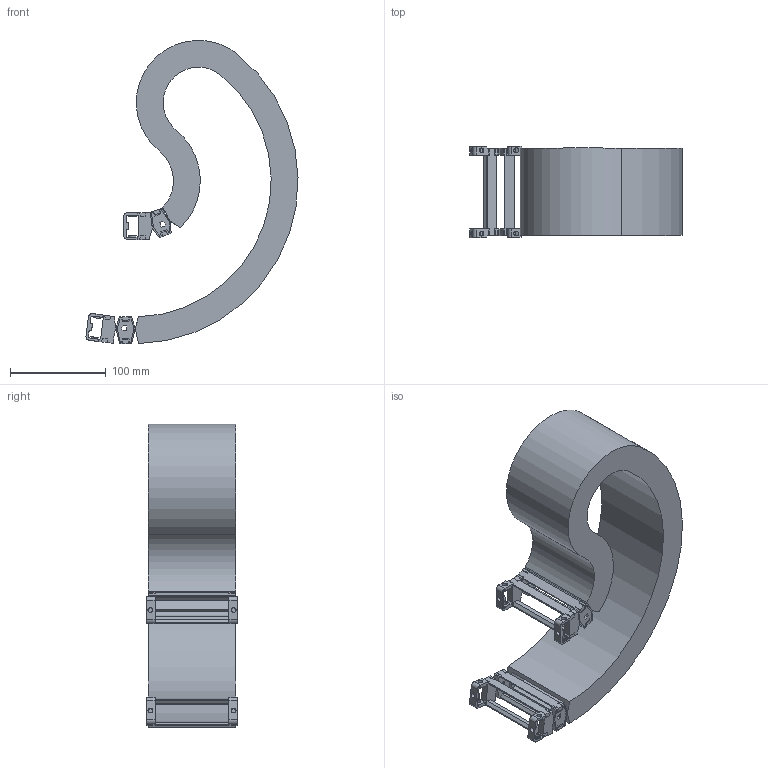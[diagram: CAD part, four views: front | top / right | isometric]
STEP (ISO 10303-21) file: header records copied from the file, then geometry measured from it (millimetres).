
FILE_DESCRIPTION( ( 'STEP AP214' ), '1' );
FILE_NAME( 'e:/temp/worker_26/temp/exporttempdir_4416_1422_EzXEy/format_0/RV020CRA91974030130150-0077893.2245.stp', '2021-07-23T16:18:39', ( 'License CC BY-ND 4.0' ), ( 'CADENAS' ), ' ', 'PARTsolutions', ' ' );
FILE_SCHEMA( ( 'AUTOMOTIVE_DESIGN { 1 0 10303 214 1 1 1 1 }' ) );
Length unit declared in the file: millimetre
Products named in the file (4): RV020CRA91974030130150-0077893.2245; _RV020CRA91974030130150-0077563.52-Chain; _RV020CR-20-77; _RV 020CR_FB-91
Assembly tree (5 placements, depth 2):
  RV020CRA91974030130150-0077893.2245
    _RV020CRA91974030130150-0077563.52-Chain
    _RV020CR-20-77  x2
    _RV 020CR_FB-91  x2
Bounding box: 221.3 x 95 x 316.56 mm (x, y, z)
Volume: 685433.6 mm3; surface area: 308011.6 mm2
Topology: 5 solids, 5 shells, 600 faces, 1724 edges, 1124 vertices
Faces by surface type: plane 480, cylinder 120
Full cylindrical faces by diameter (mm): 5 x12
Entity records: 12586 total; most frequent: CARTESIAN_POINT 1776, ORIENTED_EDGE 1764, DIRECTION 1656, EDGE_CURVE 882, LINE 740, VECTOR 740, VERTEX_POINT 578, AXIS2_PLACEMENT_3D 458
